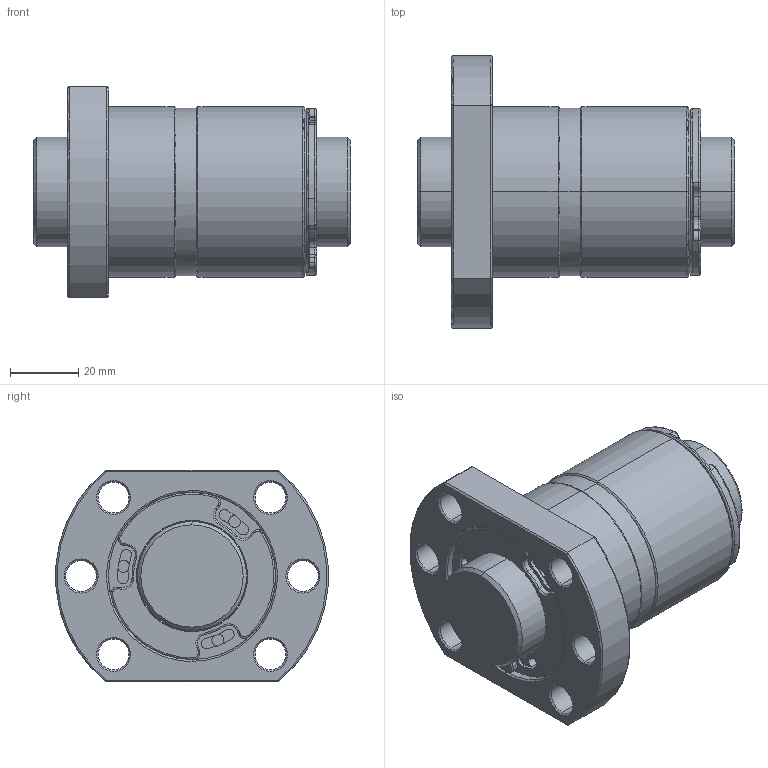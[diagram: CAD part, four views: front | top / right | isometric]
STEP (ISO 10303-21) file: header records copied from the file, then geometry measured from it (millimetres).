
FILE_DESCRIPTION (( 'STEP AP203' ), '1' );
FILE_NAME ('DFSR03205C1D-C.STEP', '2020-06-17T02:26:42', ( '' ), ( '' ), 'SwSTEP 2.0', 'SolidWorks 2013', '' );
FILE_SCHEMA (( 'CONFIG_CONTROL_DESIGN' ));
Length unit declared in the file: millimetre
Products named in the file (1): DFSR03205C1D-C
Bounding box: 93 x 79.74 x 62 mm (x, y, z)
Volume: 174276.7 mm3; surface area: 41514.5 mm2
Topology: 2 solids, 2 shells, 308 faces, 784 edges, 493 vertices
Faces by surface type: cylinder 142, plane 69, torus 62, cone 33, bspline 2
Entity records: 13083 total; most frequent: CARTESIAN_POINT 5288, DIRECTION 1782, ORIENTED_EDGE 1568, EDGE_CURVE 784, AXIS2_PLACEMENT_3D 775, VERTEX_POINT 493, CIRCLE 468, EDGE_LOOP 339
